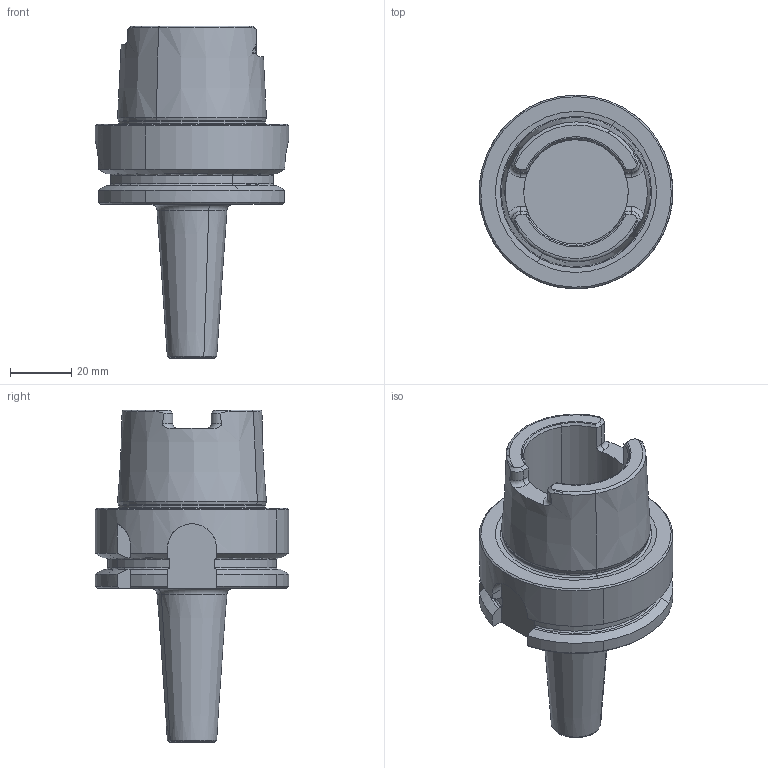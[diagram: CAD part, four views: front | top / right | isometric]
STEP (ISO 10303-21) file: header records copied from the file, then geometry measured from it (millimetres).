
FILE_DESCRIPTION(('CATIA V5 STEP','CAx-IF Rec.Pracs.--- Model Styling and Organization---1.2---2011-12-15'),'2;1');
FILE_NAME('\\nas01\drv1\utils\eitdev\rte\eit\transmagicconvert\db\out\4504450 L.stp','2014-03-25T13:01:24+00:00',('none'),('none'),'CATIA Version 5 Release 21 SP 5 (IN-10)','CATIA V5 STEP AP214','none');
FILE_SCHEMA(('AUTOMOTIVE_DESIGN { 1 0 10303 214 1 1 1 1 }'));
Length unit declared in the file: millimetre
Products named in the file (1): 60935892_0 Holder-Tool HSK A 63 SRK 10X 50
Bounding box: 63 x 63 x 108 mm (x, y, z)
Volume: 105707.8 mm3; surface area: 23763.5 mm2
Topology: 1 solids, 1 shells, 134 faces, 347 edges, 218 vertices
Faces by surface type: plane 41, cone 35, cylinder 30, torus 28
Entity records: 4177 total; most frequent: CARTESIAN_POINT 1279, ORIENTED_EDGE 694, DIRECTION 428, EDGE_CURVE 347, AXIS2_PLACEMENT_3D 229, VERTEX_POINT 218, CIRCLE 149, EDGE_LOOP 137
